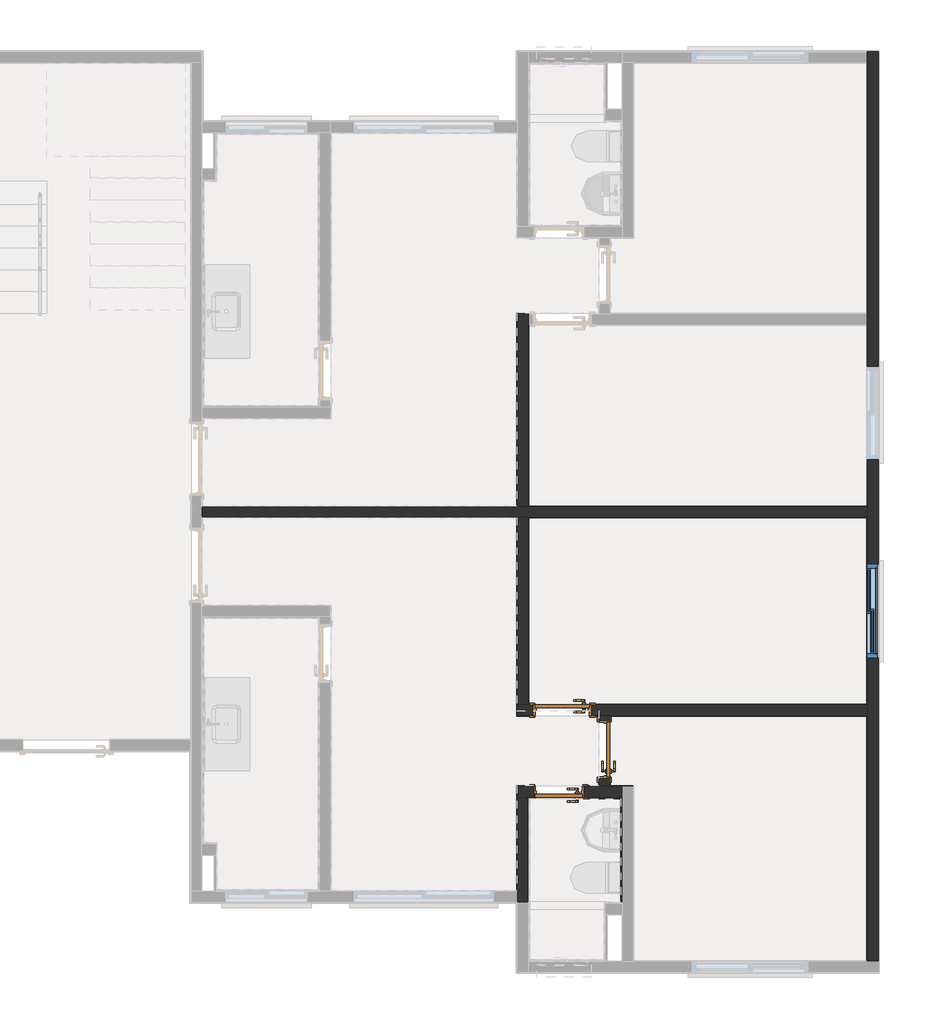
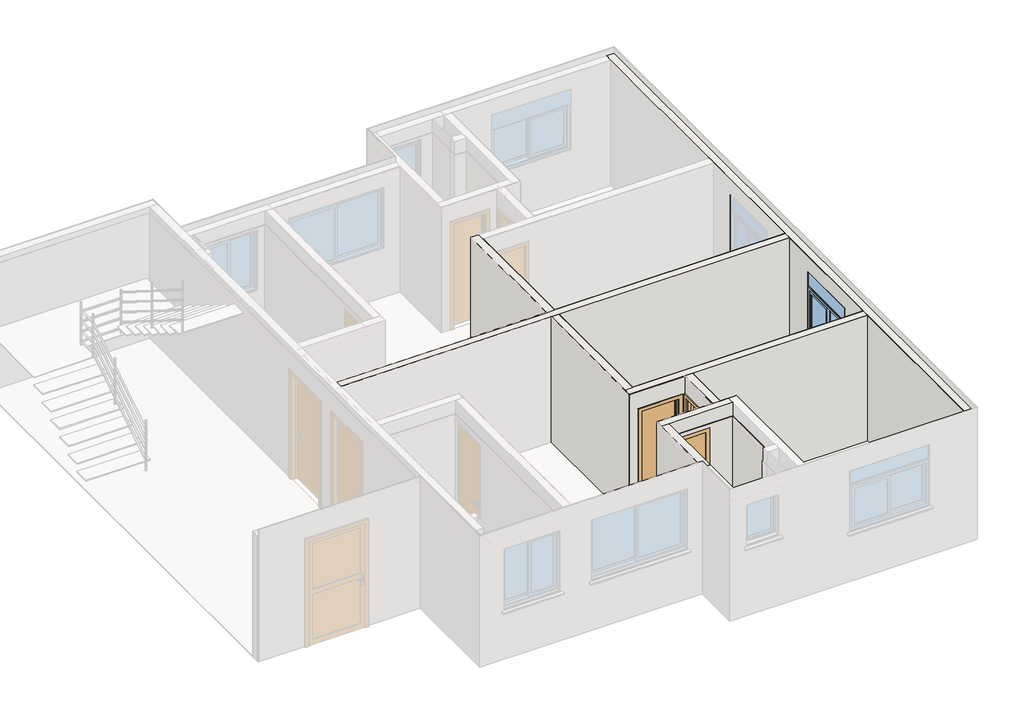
# One storey, part 8 of 11: 26 walls, 3 doors, 1 window.
"""IFC4 building model written with IfcOpenShell, lengths in millimetres."""

from ifc_helpers import new_model, si_unit, frame, origin, origin_with_axes, place, context, project, spatial, polyline, outline, extrude, faceted_brep, transform, mapped, element, save
from components import porta_de_madeira_interna_60_x_210_porta_de_madeira_interna_6d4bee1b, porta_de_madeira_interna_70_x_210_porta_de_madeira_interna_f307109d, window_120x120_8f0dd2b5

model = new_model("IFC4")

# Units and contexts
model_context = context("Model", 3, world=origin())
ifc_project = project(units=[si_unit("LENGTHUNIT", "METRE", prefix="MILLI")], contexts=[model_context])

# Site, building, storey
site = spatial("IfcSite", under=ifc_project)
building = spatial("IfcBuilding", under=site)
storey = spatial("IfcBuildingStorey", under=building, Name="Térreo", Elevation=0.0)

# Doors
placement = place(None, origin())
porta_de_madeira_interna_60_x_210_porta_de_madeira_interna_shape = porta_de_madeira_interna_60_x_210_porta_de_madeira_interna_6d4bee1b(model_context)
element("IfcDoor", 1, ObjectType="Porta de Madeira Interna 60 x 210 : Porta de Madeira Interna 60 x 210", at=placement, inside=storey, context=model_context, shape_type="MappedRepresentation", body=[
    mapped(porta_de_madeira_interna_60_x_210_porta_de_madeira_interna_shape, transform((16681.9956991, 2796.8217615, 0.0), x_axis=(-1.0, 0.0, 0.0), y_axis=(0.0, -1.0, 0.0), z_axis=(0.0, 0.0, 1.0))),
])
porta_de_madeira_interna_70_x_210_porta_de_madeira_interna_shape = porta_de_madeira_interna_70_x_210_porta_de_madeira_interna_f307109d(model_context)
element("IfcDoor", 2, ObjectType="Porta de Madeira Interna 70 x 210 : Porta de Madeira Interna 70 x 210", at=placement, inside=storey, context=model_context, shape_type="MappedRepresentation", body=[
    mapped(porta_de_madeira_interna_70_x_210_porta_de_madeira_interna_shape, transform((17273.1716432, 3342.9958256, 0.0), x_axis=(0.0, 1.0, 0.0), y_axis=(-1.0, 0.0, 0.0), z_axis=(0.0, 0.0, 1.0))),
])
element("IfcDoor", 3, ObjectType="Porta de Madeira Interna 70 x 210 : Porta de Madeira Interna 70 x 210", at=placement, inside=storey, context=model_context, shape_type="MappedRepresentation", body=[
    mapped(porta_de_madeira_interna_70_x_210_porta_de_madeira_interna_shape, transform((16726.9947994, 3853.1701411, 0.0), x_axis=(-1.0, 0.0, 0.0), y_axis=(0.0, -1.0, 0.0), z_axis=(0.0, 0.0, 1.0))),
])

# Walls
element("IfcWall", 4, ObjectType="Alvenaria Estrutural", at=placement, inside=storey, context=model_context, shape_type="Brep", body=[
    faceted_brep([(20649.9955249, 4525.0101878, 1000.0), (20649.9955249, 4525.0101878, 2200.0), (20789.9955249, 4525.0101878, 2200.0), (20789.9955249, 4525.0101878, 1000.0), (20692.4955249, 4525.0101878, 1000.0), (20649.9955249, 8275.01044, 2200.0), (20649.9955249, 8275.01044, 1000.0), (20692.4955249, 8275.01044, 1000.0), (20789.9955249, 8275.01044, 1000.0), (20789.9955249, 8275.01044, 2200.0), (20649.9955249, 12180.0252435, 0.0), (20649.9955249, 12319.9951043, 0.0), (20789.9955249, 12319.9951043, 0.0), (20789.9955249, 619.9952456, 0.0), (20649.9955249, 619.9952456, 0.0), (20649.9955249, 3773.9951411, 0.0), (20649.9955249, 3779.9951411, 0.0), (20649.9955249, 3919.9951411, 0.0), (20649.9955249, 3925.9951411, 0.0), (20649.9955249, 6324.0103139, 0.0), (20649.9955249, 6330.0103139, 0.0), (20649.9955249, 6470.0103139, 0.0), (20649.9955249, 6476.0103139, 0.0), (20649.9955249, 8804.0244803, 0.0), (20649.9955249, 8810.0244803, 0.0), (20649.9955249, 8950.0244803, 0.0), (20649.9955249, 8956.0244803, 0.0), (20649.9955249, 619.9952456, 2510.0), (20789.9955249, 619.9952456, 2510.0), (20649.9955249, 12319.9951043, 2510.0), (20789.9955249, 12319.9951043, 2510.0), (20789.9955249, 4475.0101878, 1000.0), (20789.9955249, 4475.0101878, 951.3083694), (20692.4955249, 4475.0101878, 972.0326341), (20692.4955249, 4475.0101878, 1000.0), (20789.9955249, 5775.0101878, 951.3083694), (20789.9955249, 5775.0101878, 1000.0), (20692.4955249, 5775.0101878, 1000.0), (20692.4955249, 5775.0101878, 972.0326341), (20692.4955249, 5725.0101878, 1000.0), (20789.9955249, 7025.01044, 1000.0), (20789.9955249, 7025.01044, 951.3083694), (20692.4955249, 7025.01044, 972.0326341), (20692.4955249, 7025.01044, 1000.0), (20789.9955249, 8325.01044, 951.3083694), (20789.9955249, 8325.01044, 1000.0), (20692.4955249, 8325.01044, 1000.0), (20692.4955249, 8325.01044, 972.0326341), (20692.4955249, 7075.01044, 1000.0), (20789.9955249, 7075.01044, 1000.0), (20649.9955249, 3773.9951411, 2510.0), (20649.9955249, 3779.9951411, 2510.0), (20649.9955249, 3919.9951411, 2510.0), (20649.9955249, 3925.9951411, 2510.0), (20649.9955249, 6324.0103139, 2510.0), (20649.9955249, 6330.0103139, 2510.0), (20649.9955249, 6470.0103139, 2510.0), (20649.9955249, 6476.0103139, 2510.0), (20649.9955249, 8804.0244803, 2510.0), (20649.9955249, 8810.0244803, 2510.0), (20649.9955249, 8950.0244803, 2510.0), (20649.9955249, 8956.0244803, 2510.0), (20649.9955249, 12180.0252435, 2510.0), (20649.9955249, 5725.0101878, 1000.0), (20649.9955249, 5725.0101878, 2200.0), (20649.9955249, 7075.01044, 2200.0), (20649.9955249, 7075.01044, 1000.0), (20789.9955249, 7075.01044, 2200.0), (20789.9955249, 5725.0101878, 2200.0), (20789.9955249, 5725.0101878, 1000.0)], [[[0, 1, 2, 3, 4]], [[5, 6, 7, 8, 9]], [[10, 11, 12, 13, 14, 15, 16, 17, 18, 19, 20, 21, 22, 23, 24, 25, 26]], [[27, 14, 13, 28]], [[11, 29, 30, 12]], [[31, 32, 33, 34]], [[35, 36, 37, 38]], [[39, 4, 34, 33, 38, 37]], [[3, 31, 34, 4]], [[32, 35, 38, 33]], [[40, 41, 42, 43]], [[44, 45, 46, 47]], [[7, 48, 43, 42, 47, 46]], [[49, 40, 43, 48]], [[41, 44, 47, 42]], [[11, 10, 26, 25, 24, 23, 22, 21, 20, 19, 18, 17, 16, 15, 14, 27, 50, 51, 52, 53, 54, 55, 56, 57, 58, 59, 60, 61, 62, 29], [63, 64, 1, 0], [65, 66, 6, 5]], [[13, 12, 30, 28], [41, 40, 49, 67, 9, 8, 45, 44], [68, 69, 36, 35, 32, 31, 3, 2]], [[64, 63, 39, 69, 68]], [[1, 64, 68, 2]], [[63, 0, 4, 39]], [[66, 65, 67, 49, 48]], [[65, 5, 9, 67]], [[6, 66, 48, 7]], [[45, 8, 7, 46]], [[36, 69, 39, 37]], [[50, 27, 28, 30, 29, 62, 61, 60, 59, 58, 57, 56, 55, 54, 53, 52, 51]]]),
    faceted_brep([(20649.9955249, 12319.9951043, 0.0), (20649.9955249, 12180.0252435, 0.0), (20649.9955249, 8956.0244803, 0.0), (20649.9955249, 8950.0244803, 0.0), (20649.9955249, 8810.0244803, 0.0), (20649.9955249, 8804.0244803, 0.0), (20649.9955249, 6476.0103139, 0.0), (20649.9955249, 6470.0103139, 0.0), (20649.9955249, 6330.0103139, 0.0), (20649.9955249, 6324.0103139, 0.0), (20649.9955249, 3925.9951411, 0.0), (20649.9955249, 3919.9951411, 0.0), (20649.9955249, 3779.9951411, 0.0), (20649.9955249, 3773.9951411, 0.0), (20649.9955249, 619.9952456, 0.0), (20649.9955249, 619.9952456, 2510.0), (20649.9955249, 3773.9951411, 2510.0), (20649.9955249, 3779.9951411, 2510.0), (20649.9955249, 3919.9951411, 2510.0), (20649.9955249, 3925.9951411, 2510.0), (20649.9955249, 6324.0103139, 2510.0), (20649.9955249, 6330.0103139, 2510.0), (20649.9955249, 6470.0103139, 2510.0), (20649.9955249, 6476.0103139, 2510.0), (20649.9955249, 8804.0244803, 2510.0), (20649.9955249, 8810.0244803, 2510.0), (20649.9955249, 8950.0244803, 2510.0), (20649.9955249, 8956.0244803, 2510.0), (20649.9955249, 12180.0252435, 2510.0), (20649.9955249, 12319.9951043, 2510.0), (20649.9955249, 5725.0101878, 1000.0), (20649.9955249, 5725.0101878, 2200.0), (20649.9955249, 4525.0101878, 2200.0), (20649.9955249, 4525.0101878, 1000.0), (20649.9955249, 7075.01044, 2200.0), (20649.9955249, 7075.01044, 1000.0), (20649.9955249, 8275.01044, 1000.0), (20649.9955249, 8275.01044, 2200.0), (20789.9955249, 619.9952456, 0.0), (20789.9955249, 12319.9951043, 0.0), (20789.9955249, 12319.9951043, 2510.0), (20789.9955249, 619.9952456, 2510.0), (20789.9955249, 5725.0101878, 2200.0), (20789.9955249, 5725.0101878, 1000.0), (20789.9955249, 5775.0101878, 1000.0), (20789.9955249, 5775.0101878, 951.3083694), (20789.9955249, 4475.0101878, 951.3083694), (20789.9955249, 4475.0101878, 1000.0), (20789.9955249, 4525.0101878, 1000.0), (20789.9955249, 4525.0101878, 2200.0), (20789.9955249, 7025.01044, 951.3083694), (20789.9955249, 7025.01044, 1000.0), (20789.9955249, 7075.01044, 1000.0), (20789.9955249, 7075.01044, 2200.0), (20789.9955249, 8275.01044, 2200.0), (20789.9955249, 8275.01044, 1000.0), (20789.9955249, 8325.01044, 1000.0), (20789.9955249, 8325.01044, 951.3083694), (20692.4955249, 5725.0101878, 1000.0), (20692.4955249, 4525.0101878, 1000.0), (20692.4955249, 7075.01044, 1000.0), (20692.4955249, 8275.01044, 1000.0), (20692.4955249, 4475.0101878, 972.0326341), (20692.4955249, 4475.0101878, 1000.0), (20692.4955249, 5775.0101878, 1000.0), (20692.4955249, 5775.0101878, 972.0326341), (20692.4955249, 7025.01044, 972.0326341), (20692.4955249, 7025.01044, 1000.0), (20692.4955249, 8325.01044, 1000.0), (20692.4955249, 8325.01044, 972.0326341)], [[[0, 1, 2, 3, 4, 5, 6, 7, 8, 9, 10, 11, 12, 13, 14, 15, 16, 17, 18, 19, 20, 21, 22, 23, 24, 25, 26, 27, 28, 29], [30, 31, 32, 33], [34, 35, 36, 37]], [[38, 39, 40, 41], [42, 43, 44, 45, 46, 47, 48, 49], [50, 51, 52, 53, 54, 55, 56, 57]], [[31, 30, 58, 43, 42]], [[32, 31, 42, 49]], [[33, 32, 49, 48, 59]], [[30, 33, 59, 58]], [[35, 34, 53, 52, 60]], [[34, 37, 54, 53]], [[37, 36, 61, 55, 54]], [[36, 35, 60, 61]], [[1, 0, 39, 38, 14, 13, 12, 11, 10, 9, 8, 7, 6, 5, 4, 3, 2]], [[15, 14, 38, 41]], [[16, 15, 41, 40, 29, 28, 27, 26, 25, 24, 23, 22, 21, 20, 19, 18, 17]], [[0, 29, 40, 39]], [[47, 46, 62, 63]], [[45, 44, 64, 65]], [[58, 59, 63, 62, 65, 64]], [[48, 47, 63, 59]], [[46, 45, 65, 62]], [[51, 50, 66, 67]], [[57, 56, 68, 69]], [[61, 60, 67, 66, 69, 68]], [[52, 51, 67, 60]], [[50, 57, 69, 66]], [[56, 55, 61, 68]], [[44, 43, 58, 64]]]),
])
element("IfcWall", 5, ObjectType="Alvenaria Estrutural", at=placement, inside=storey, context=model_context, shape_type="Brep", body=[
    faceted_brep([(20643.9955249, 3919.9951411, 0.0), (20649.9955249, 3919.9951411, 0.0), (20649.9955249, 3779.9951411, 0.0), (20643.9955249, 3779.9951411, 0.0), (17345.9966432, 3779.9951411, 0.0), (17339.9966432, 3779.9951411, 0.0), (17199.9966432, 3779.9951411, 0.0), (17193.9966432, 3779.9951411, 0.0), (17101.9947994, 3779.9951411, 0.0), (17101.9947994, 3919.9951411, 0.0), (16289.9950207, 3919.9951411, 2510.0), (16149.9950207, 3919.9951411, 2510.0), (16149.9950207, 3779.9951411, 2510.0), (17193.9966432, 3779.9951411, 2510.0), (17199.9966432, 3779.9951411, 2510.0), (17339.9966432, 3779.9951411, 2510.0), (17345.9966432, 3779.9951411, 2510.0), (20643.9955249, 3779.9951411, 2510.0), (20649.9955249, 3779.9951411, 2510.0), (20649.9955249, 3919.9951411, 2510.0), (20643.9955249, 3919.9951411, 2510.0), (16295.9950207, 3919.9951411, 2510.0), (16351.9947994, 3919.9951411, 0.0), (16351.9947994, 3919.9951411, 2125.0), (16351.9947994, 3779.9951411, 2125.0), (16351.9947994, 3779.9951411, 0.0), (17101.9947994, 3919.9951411, 2125.0), (17101.9947994, 3779.9951411, 2125.0), (16295.9950207, 3919.9951411, 0.0), (16149.9950207, 3779.9951411, 0.0), (16149.9950207, 3919.9951411, 0.0), (16289.9950207, 3919.9951411, 0.0)], [[[0, 1, 2, 3, 4, 5, 6, 7, 8, 9]], [[10, 11, 12, 13, 14, 15, 16, 17, 18, 19, 20, 21]], [[22, 23, 24, 25]], [[23, 26, 27, 24]], [[26, 9, 8, 27]], [[28, 22, 25, 29, 30, 31]], [[18, 17, 16, 15, 14, 13, 12, 29, 25, 24, 27, 8, 7, 6, 5, 4, 3, 2]], [[11, 10, 21, 20, 19, 1, 0, 9, 26, 23, 22, 28, 31, 30]], [[11, 30, 29, 12]], [[1, 19, 18, 2]]]),
    faceted_brep([(16149.9950207, 3919.9951411, 2510.0), (16289.9950207, 3919.9951411, 2510.0), (16295.9950207, 3919.9951411, 2510.0), (20643.9955249, 3919.9951411, 2510.0), (20649.9955249, 3919.9951411, 2510.0), (20649.9955249, 3919.9951411, 0.0), (20643.9955249, 3919.9951411, 0.0), (17101.9947994, 3919.9951411, 0.0), (17101.9947994, 3919.9951411, 2125.0), (16351.9947994, 3919.9951411, 2125.0), (16351.9947994, 3919.9951411, 0.0), (16295.9950207, 3919.9951411, 0.0), (16289.9950207, 3919.9951411, 0.0), (16149.9950207, 3919.9951411, 0.0), (20649.9955249, 3779.9951411, 2510.0), (20643.9955249, 3779.9951411, 2510.0), (17345.9966432, 3779.9951411, 2510.0), (17339.9966432, 3779.9951411, 2510.0), (17199.9966432, 3779.9951411, 2510.0), (17193.9966432, 3779.9951411, 2510.0), (16149.9950207, 3779.9951411, 2510.0), (16149.9950207, 3779.9951411, 0.0), (16351.9947994, 3779.9951411, 0.0), (16351.9947994, 3779.9951411, 2125.0), (17101.9947994, 3779.9951411, 2125.0), (17101.9947994, 3779.9951411, 0.0), (17193.9966432, 3779.9951411, 0.0), (17199.9966432, 3779.9951411, 0.0), (17339.9966432, 3779.9951411, 0.0), (17345.9966432, 3779.9951411, 0.0), (20643.9955249, 3779.9951411, 0.0), (20649.9955249, 3779.9951411, 0.0)], [[[0, 1, 2, 3, 4, 5, 6, 7, 8, 9, 10, 11, 12, 13]], [[14, 15, 16, 17, 18, 19, 20, 21, 22, 23, 24, 25, 26, 27, 28, 29, 30, 31]], [[6, 5, 31, 30, 29, 28, 27, 26, 25, 7]], [[1, 0, 20, 19, 18, 17, 16, 15, 14, 4, 3, 2]], [[10, 9, 23, 22]], [[9, 8, 24, 23]], [[8, 7, 25, 24]], [[0, 13, 21, 20]], [[5, 4, 14, 31]], [[11, 10, 22, 21, 13, 12]]]),
])
element("IfcWall", 6, ObjectType="Alvenaria Estrutural", at=placement, inside=storey, context=model_context, shape_type="Brep", body=[
    faceted_brep([(20643.9955249, 6470.0103139, 0.0), (20649.9955249, 6470.0103139, 0.0), (20649.9955249, 6330.0103139, 0.0), (20643.9955249, 6330.0103139, 0.0), (16295.9950207, 6330.0103139, 0.0), (16289.9950207, 6330.0103139, 0.0), (16149.9950207, 6330.0103139, 0.0), (16143.9950207, 6330.0103139, 0.0), (12095.9984066, 6330.0103139, 0.0), (12089.9984066, 6330.0103139, 0.0), (12089.9984066, 6470.0103139, 0.0), (12095.9984066, 6470.0103139, 0.0), (16143.9950207, 6470.0103139, 0.0), (16149.9950207, 6470.0103139, 0.0), (16289.9950207, 6470.0103139, 0.0), (16295.9950207, 6470.0103139, 0.0), (20649.9955249, 6330.0103139, 2510.0), (20643.9955249, 6330.0103139, 2510.0), (16295.9950207, 6330.0103139, 2510.0), (16289.9950207, 6330.0103139, 2510.0), (16149.9950207, 6330.0103139, 2510.0), (16143.9950207, 6330.0103139, 2510.0), (12095.9984066, 6330.0103139, 2510.0), (12089.9984066, 6330.0103139, 2510.0), (12089.9984066, 6470.0103139, 2510.0), (12095.9984066, 6470.0103139, 2510.0), (16143.9950207, 6470.0103139, 2510.0), (16149.9950207, 6470.0103139, 2510.0), (16289.9950207, 6470.0103139, 2510.0), (16295.9950207, 6470.0103139, 2510.0), (20643.9955249, 6470.0103139, 2510.0), (20649.9955249, 6470.0103139, 2510.0)], [[[0, 1, 2, 3, 4, 5, 6, 7, 8, 9, 10, 11, 12, 13, 14, 15]], [[2, 16, 17, 18, 19, 20, 21, 22, 23, 9, 8, 7, 6, 5, 4, 3]], [[1, 0, 15, 14, 13, 12, 11, 10, 24, 25, 26, 27, 28, 29, 30, 31]], [[25, 24, 23, 22, 21, 20, 19, 18, 17, 16, 31, 30, 29, 28, 27, 26]], [[24, 10, 9, 23]], [[1, 31, 16, 2]]]),
    faceted_brep([(20649.9955249, 6470.0103139, 0.0), (20643.9955249, 6470.0103139, 0.0), (16295.9950207, 6470.0103139, 0.0), (16289.9950207, 6470.0103139, 0.0), (16149.9950207, 6470.0103139, 0.0), (16143.9950207, 6470.0103139, 0.0), (12095.9984066, 6470.0103139, 0.0), (12089.9984066, 6470.0103139, 0.0), (12089.9984066, 6470.0103139, 2510.0), (12095.9984066, 6470.0103139, 2510.0), (16143.9950207, 6470.0103139, 2510.0), (16149.9950207, 6470.0103139, 2510.0), (16289.9950207, 6470.0103139, 2510.0), (16295.9950207, 6470.0103139, 2510.0), (20643.9955249, 6470.0103139, 2510.0), (20649.9955249, 6470.0103139, 2510.0), (20649.9955249, 6330.0103139, 0.0), (20649.9955249, 6330.0103139, 2510.0), (20643.9955249, 6330.0103139, 2510.0), (16295.9950207, 6330.0103139, 2510.0), (16289.9950207, 6330.0103139, 2510.0), (16149.9950207, 6330.0103139, 2510.0), (16143.9950207, 6330.0103139, 2510.0), (12095.9984066, 6330.0103139, 2510.0), (12089.9984066, 6330.0103139, 2510.0), (12089.9984066, 6330.0103139, 0.0), (12095.9984066, 6330.0103139, 0.0), (16143.9950207, 6330.0103139, 0.0), (16149.9950207, 6330.0103139, 0.0), (16289.9950207, 6330.0103139, 0.0), (16295.9950207, 6330.0103139, 0.0), (20643.9955249, 6330.0103139, 0.0)], [[[0, 1, 2, 3, 4, 5, 6, 7, 8, 9, 10, 11, 12, 13, 14, 15]], [[16, 17, 18, 19, 20, 21, 22, 23, 24, 25, 26, 27, 28, 29, 30, 31]], [[1, 0, 16, 31, 30, 29, 28, 27, 26, 25, 7, 6, 5, 4, 3, 2]], [[9, 8, 24, 23, 22, 21, 20, 19, 18, 17, 15, 14, 13, 12, 11, 10]], [[8, 7, 25, 24]], [[0, 15, 17, 16]]]),
])
element("IfcWall", 7, ObjectType="Alvenaria Estrutural", at=placement, inside=storey, context=model_context, shape_type="Brep", body=[
    faceted_brep([(16149.9950207, 6324.0103139, 0.0), (16149.9950207, 6330.0103139, 0.0), (16289.9950207, 6330.0103139, 0.0), (16289.9950207, 6324.0103139, 0.0), (16289.9950207, 3925.9951411, 0.0), (16289.9950207, 3919.9951411, 0.0), (16149.9950207, 3919.9951411, 0.0), (16149.9950207, 6324.0103139, 2510.0), (16149.9950207, 3919.9951411, 2510.0), (16289.9950207, 3919.9951411, 2510.0), (16289.9950207, 3925.9951411, 2510.0), (16289.9950207, 6324.0103139, 2510.0), (16289.9950207, 6330.0103139, 2510.0), (16149.9950207, 6330.0103139, 2510.0)], [[[0, 1, 2, 3, 4, 5, 6]], [[7, 8, 9, 10, 11, 12, 13]], [[2, 12, 11, 10, 9, 5, 4, 3]], [[1, 0, 6, 8, 7, 13]], [[1, 13, 12, 2]], [[8, 6, 5, 9]]]),
    faceted_brep([(16149.9950207, 6330.0103139, 0.0), (16149.9950207, 6324.0103139, 0.0), (16149.9950207, 3919.9951411, 0.0), (16149.9950207, 3919.9951411, 2510.0), (16149.9950207, 6324.0103139, 2510.0), (16149.9950207, 6330.0103139, 2510.0), (16289.9950207, 6330.0103139, 0.0), (16289.9950207, 6330.0103139, 2510.0), (16289.9950207, 6324.0103139, 2510.0), (16289.9950207, 3925.9951411, 2510.0), (16289.9950207, 3919.9951411, 2510.0), (16289.9950207, 3919.9951411, 0.0), (16289.9950207, 3925.9951411, 0.0), (16289.9950207, 6324.0103139, 0.0)], [[[0, 1, 2, 3, 4, 5]], [[6, 7, 8, 9, 10, 11, 12, 13]], [[1, 0, 6, 13, 12, 11, 2]], [[4, 3, 10, 9, 8, 7, 5]], [[0, 5, 7, 6]], [[3, 2, 11, 10]]]),
])
element("IfcWall", 8, ObjectType="Alvenaria Estrutural", at=placement, inside=storey, context=model_context, shape_type="Brep", body=[
    faceted_brep([(17199.9966432, 2875.9967615, 2510.0), (17199.9966432, 2869.9967615, 2510.0), (17339.9966432, 2869.9967615, 2510.0), (17339.9966432, 2875.9967615, 2510.0), (17339.9966432, 3779.9951411, 2510.0), (17199.9966432, 3779.9951411, 2510.0), (17199.9966432, 3773.9951411, 2510.0), (17199.9966432, 3717.9958256, 2125.0), (17199.9966432, 3717.9958256, 0.0), (17339.9966432, 3717.9958256, 0.0), (17339.9966432, 3717.9958256, 2125.0), (17199.9966432, 2967.9958256, 2125.0), (17339.9966432, 2967.9958256, 2125.0), (17199.9966432, 2967.9958256, 0.0), (17339.9966432, 2967.9958256, 0.0), (17339.9966432, 2869.9967615, 0.0), (17339.9966432, 2875.9967615, 0.0), (17339.9966432, 3779.9951411, 0.0), (17199.9966432, 3779.9951411, 0.0), (17199.9966432, 3773.9951411, 0.0), (17199.9966432, 2875.9967615, 0.0), (17199.9966432, 2869.9967615, 0.0)], [[[0, 1, 2, 3, 4, 5, 6]], [[7, 8, 9, 10]], [[11, 7, 10, 12]], [[13, 11, 12, 14]], [[4, 3, 2, 15, 16, 14, 12, 10, 9, 17]], [[1, 0, 6, 5, 18, 19, 8, 7, 11, 13, 20, 21]], [[19, 18, 17, 9, 8]], [[1, 21, 15, 2]], [[18, 5, 4, 17]], [[20, 13, 14, 16, 15, 21]]]),
    faceted_brep([(17199.9966432, 2869.9967615, 2510.0), (17199.9966432, 2875.9967615, 2510.0), (17199.9966432, 3773.9951411, 2510.0), (17199.9966432, 3779.9951411, 2510.0), (17199.9966432, 3779.9951411, 0.0), (17199.9966432, 3773.9951411, 0.0), (17199.9966432, 3717.9958256, 0.0), (17199.9966432, 3717.9958256, 2125.0), (17199.9966432, 2967.9958256, 2125.0), (17199.9966432, 2967.9958256, 0.0), (17199.9966432, 2875.9967615, 0.0), (17199.9966432, 2869.9967615, 0.0), (17339.9966432, 3779.9951411, 2510.0), (17339.9966432, 2875.9967615, 2510.0), (17339.9966432, 2869.9967615, 2510.0), (17339.9966432, 2869.9967615, 0.0), (17339.9966432, 2875.9967615, 0.0), (17339.9966432, 2967.9958256, 0.0), (17339.9966432, 2967.9958256, 2125.0), (17339.9966432, 3717.9958256, 2125.0), (17339.9966432, 3717.9958256, 0.0), (17339.9966432, 3779.9951411, 0.0)], [[[0, 1, 2, 3, 4, 5, 6, 7, 8, 9, 10, 11]], [[12, 13, 14, 15, 16, 17, 18, 19, 20, 21]], [[5, 4, 21, 20, 6]], [[1, 0, 14, 13, 12, 3, 2]], [[7, 6, 20, 19]], [[8, 7, 19, 18]], [[9, 8, 18, 17]], [[0, 11, 15, 14]], [[4, 3, 12, 21]], [[10, 9, 17, 16, 15, 11]]]),
])
element("IfcWall", 9, ObjectType="Alvenaria Estrutural", at=placement, inside=storey, context=model_context, shape_type="Brep", body=[
    faceted_brep([(17339.9966432, 2869.9967615, 0.0), (17499.9970535, 2869.9967615, 0.0), (17499.9970535, 2729.9967615, 0.0), (17006.9956991, 2729.9967615, 0.0), (17006.9956991, 2869.9967615, 0.0), (17193.9966432, 2869.9967615, 0.0), (17199.9966432, 2869.9967615, 0.0), (17193.9966432, 2869.9967615, 2510.0), (16149.9956991, 2869.9967615, 2510.0), (16149.9956991, 2729.9967615, 2510.0), (16289.9956991, 2729.9967615, 2510.0), (17499.9970535, 2729.9967615, 2510.0), (17499.9970535, 2869.9967615, 2510.0), (17339.9966432, 2869.9967615, 2510.0), (17199.9966432, 2869.9967615, 2510.0), (16356.9956991, 2869.9967615, 0.0), (16356.9956991, 2869.9967615, 2125.0), (16356.9956991, 2729.9967615, 2125.0), (16356.9956991, 2729.9967615, 0.0), (17006.9956991, 2869.9967615, 2125.0), (17006.9956991, 2729.9967615, 2125.0), (16149.9956991, 2869.9967615, 0.0), (16289.9956991, 2729.9967615, 0.0), (16149.9956991, 2729.9967615, 0.0)], [[[0, 1, 2, 3, 4, 5, 6]], [[7, 8, 9, 10, 11, 12, 13, 14]], [[15, 16, 17, 18]], [[16, 19, 20, 17]], [[19, 4, 3, 20]], [[21, 15, 18, 22, 23]], [[11, 10, 9, 23, 22, 18, 17, 20, 3, 2]], [[8, 7, 14, 13, 12, 1, 0, 6, 5, 4, 19, 16, 15, 21]], [[8, 21, 23, 9]], [[1, 12, 11, 2]]]),
    faceted_brep([(16149.9956991, 2869.9967615, 2510.0), (17193.9966432, 2869.9967615, 2510.0), (17199.9966432, 2869.9967615, 2510.0), (17339.9966432, 2869.9967615, 2510.0), (17499.9970535, 2869.9967615, 2510.0), (17499.9970535, 2869.9967615, 0.0), (17339.9966432, 2869.9967615, 0.0), (17199.9966432, 2869.9967615, 0.0), (17193.9966432, 2869.9967615, 0.0), (17006.9956991, 2869.9967615, 0.0), (17006.9956991, 2869.9967615, 2125.0), (16356.9956991, 2869.9967615, 2125.0), (16356.9956991, 2869.9967615, 0.0), (16149.9956991, 2869.9967615, 0.0), (17499.9970535, 2729.9967615, 2510.0), (16289.9956991, 2729.9967615, 2510.0), (16149.9956991, 2729.9967615, 2510.0), (16149.9956991, 2729.9967615, 0.0), (16289.9956991, 2729.9967615, 0.0), (16356.9956991, 2729.9967615, 0.0), (16356.9956991, 2729.9967615, 2125.0), (17006.9956991, 2729.9967615, 2125.0), (17006.9956991, 2729.9967615, 0.0), (17499.9970535, 2729.9967615, 0.0)], [[[0, 1, 2, 3, 4, 5, 6, 7, 8, 9, 10, 11, 12, 13]], [[14, 15, 16, 17, 18, 19, 20, 21, 22, 23]], [[6, 5, 23, 22, 9, 8, 7]], [[1, 0, 16, 15, 14, 4, 3, 2]], [[12, 11, 20, 19]], [[11, 10, 21, 20]], [[10, 9, 22, 21]], [[0, 13, 17, 16]], [[5, 4, 14, 23]], [[13, 12, 19, 18, 17]]]),
])
element("IfcWall", 10, ObjectType="Alvenaria Estrutural", at=placement, inside=storey, context=model_context, shape_type="Brep", body=[
    faceted_brep([(16289.9956991, 2709.9967615, 0.0), (16289.9956991, 1374.9970972, 0.0), (16149.9956991, 1374.9970972, 0.0), (16149.9956991, 1519.9983274, 0.0), (16149.9956991, 1525.9983274, 0.0), (16149.9956991, 2729.9967615, 0.0), (16289.9956991, 2729.9967615, 0.0), (16289.9956991, 1374.9970972, 2510.0), (16289.9956991, 2729.9967615, 2510.0), (16149.9956991, 2729.9967615, 2510.0), (16149.9956991, 1525.9983274, 2510.0), (16149.9956991, 1519.9983274, 2510.0), (16149.9956991, 1374.9970972, 2510.0), (16289.9956991, 2729.9967615, 2250.0)], [[[0, 1, 2, 3, 4, 5, 6]], [[7, 8, 9, 10, 11, 12]], [[1, 7, 12, 2]], [[1, 0, 6, 13, 8, 7]], [[2, 12, 11, 10, 9, 5, 4, 3]], [[13, 6, 5, 9, 8]]]),
    faceted_brep([(16289.9956991, 1374.9970972, 0.0), (16289.9956991, 2709.9967615, 0.0), (16289.9956991, 2729.9967615, 0.0), (16289.9956991, 2729.9967615, 2250.0), (16289.9956991, 2729.9967615, 2510.0), (16289.9956991, 1374.9970972, 2510.0), (16149.9956991, 1374.9970972, 0.0), (16149.9956991, 1374.9970972, 2510.0), (16149.9956991, 1519.9983274, 2510.0), (16149.9956991, 1525.9983274, 2510.0), (16149.9956991, 2729.9967615, 2510.0), (16149.9956991, 2729.9967615, 0.0), (16149.9956991, 1525.9983274, 0.0), (16149.9956991, 1519.9983274, 0.0)], [[[0, 1, 2, 3, 4, 5]], [[6, 7, 8, 9, 10, 11, 12, 13]], [[1, 0, 6, 13, 12, 11, 2]], [[5, 4, 10, 9, 8, 7]], [[0, 5, 7, 6]], [[3, 2, 11, 10, 4]]]),
])
element("IfcWall", 11, ObjectType="Alvenaria Estrutural", at=placement, inside=storey, context=model_context, shape_type="Brep", body=[
    faceted_brep([(16289.9950207, 6476.0103139, 0.0), (16289.9950207, 6470.0103139, 0.0), (16149.9950207, 6470.0103139, 0.0), (16149.9950207, 6476.0103139, 0.0), (16149.9950207, 8950.0244803, 0.0), (16289.9950207, 8950.0244803, 0.0), (16289.9950207, 8810.0244803, 0.0), (16289.9950207, 8804.0244803, 0.0), (16289.9950207, 8810.0244803, 2510.0), (16289.9950207, 8950.0244803, 2510.0), (16149.9950207, 8950.0244803, 2510.0), (16149.9950207, 6476.0103139, 2510.0), (16149.9950207, 6470.0103139, 2510.0), (16289.9950207, 6470.0103139, 2510.0), (16289.9950207, 6476.0103139, 2510.0), (16289.9950207, 8804.0244803, 2510.0)], [[[0, 1, 2, 3, 4, 5, 6, 7]], [[8, 9, 10, 11, 12, 13, 14, 15]], [[1, 0, 7, 6, 5, 9, 8, 15, 14, 13]], [[2, 12, 11, 10, 4, 3]], [[9, 5, 4, 10]], [[1, 13, 12, 2]]]),
    faceted_brep([(16289.9950207, 6470.0103139, 0.0), (16289.9950207, 6476.0103139, 0.0), (16289.9950207, 8804.0244803, 0.0), (16289.9950207, 8810.0244803, 0.0), (16289.9950207, 8950.0244803, 0.0), (16289.9950207, 8950.0244803, 2510.0), (16289.9950207, 8810.0244803, 2510.0), (16289.9950207, 8804.0244803, 2510.0), (16289.9950207, 6476.0103139, 2510.0), (16289.9950207, 6470.0103139, 2510.0), (16149.9950207, 6470.0103139, 0.0), (16149.9950207, 6470.0103139, 2510.0), (16149.9950207, 6476.0103139, 2510.0), (16149.9950207, 8950.0244803, 2510.0), (16149.9950207, 8950.0244803, 0.0), (16149.9950207, 6476.0103139, 0.0)], [[[0, 1, 2, 3, 4, 5, 6, 7, 8, 9]], [[10, 11, 12, 13, 14, 15]], [[1, 0, 10, 15, 14, 4, 3, 2]], [[6, 5, 13, 12, 11, 9, 8, 7]], [[5, 4, 14, 13]], [[0, 9, 11, 10]]]),
])
element("IfcWall", 12, ObjectType="Azulejo", at=placement, inside=storey, context=model_context, shape_type="SolidModel", body=[
    faceted_brep([(17479.9970535, 2709.9967615, 0.0), (17006.9956991, 2709.9967615, 0.0), (17006.9956991, 2719.9967615, 0.0), (17489.9970535, 2719.9967615, 0.0), (17489.9970535, 2709.9967615, 0.0), (16309.9956991, 2709.9967615, 2250.0), (17479.9970535, 2709.9967615, 2250.0), (17489.9970535, 2709.9967615, 2250.0), (17489.9970535, 2719.9967615, 2250.0), (16299.9956991, 2719.9967615, 2250.0), (16299.9956991, 2709.9967615, 2250.0), (16356.9956991, 2709.9967615, 2125.0), (16356.9956991, 2709.9967615, 0.0), (16356.9956991, 2719.9967615, 0.0), (16356.9956991, 2719.9967615, 2125.0), (17006.9956991, 2719.9967615, 2125.0), (17006.9956991, 2709.9967615, 2125.0), (16309.9956991, 2709.9967615, 0.0), (16299.9956991, 2709.9967615, 0.0), (16299.9956991, 2719.9967615, 0.0)], [[[0, 1, 2, 3, 4]], [[5, 6, 7, 8, 9, 10]], [[11, 12, 13, 14]], [[11, 14, 15, 16]], [[2, 1, 16, 15]], [[13, 12, 17, 18, 19]], [[14, 13, 19, 9, 8, 3, 2, 15]], [[1, 0, 4, 7, 6, 5, 10, 18, 17, 12, 11, 16]], [[4, 3, 8, 7]], [[10, 9, 19, 18]]]),
    extrude(outline(polyline([(0.0, 17006.9956991), (0.0, 17499.9970535), (2250.0, 17499.9970535), (2250.0, 16289.9956991), (0.0, 16289.9956991), (0.0, 16356.9956991), (2125.0, 16356.9956991), (2125.0, 17006.9956991), (0.0, 17006.9956991)])), frame((0.0, 2719.9967615, 0.0), z_axis=(0.0, 1.0, 0.0), x_axis=(0.0, 0.0, 1.0)), (0.0, 0.0, 1.0), 10.0),
])
element("IfcWall", 13, ObjectType="Azulejo", at=placement, inside=storey, context=model_context, shape_type="SweptSolid", body=[
    extrude(outline(polyline([(17479.9970535, 1379.9970972), (17479.9970535, 2709.9967615), (17489.9970535, 2709.9967615), (17489.9970535, 1379.9970972), (17479.9970535, 1379.9970972)])), origin_with_axes(), (0.0, 0.0, 1.0), 2250.0),
    extrude(outline(polyline([(17499.9970535, 2719.9967615), (17499.9970535, 1369.9970972), (17489.9970535, 1369.9970972), (17489.9970535, 2719.9967615), (17499.9970535, 2719.9967615)])), origin_with_axes(), (0.0, 0.0, 1.0), 2250.0),
])
element("IfcWall", 14, ObjectType="Gesso Liso + Pintura", at=placement, inside=storey, context=model_context, shape_type="SweptSolid", body=[
    extrude(outline(polyline([(16295.9950207, 8810.0244803), (16295.9950207, 6470.0103139), (16294.9950207, 6470.0103139), (16294.9950207, 8810.0244803), (16295.9950207, 8810.0244803)])), origin_with_axes(), (0.0, 0.0, 1.0), 2510.0),
    extrude(outline(polyline([(16289.9950207, 6470.0103139), (16289.9950207, 8810.0244803), (16294.9950207, 8810.0244803), (16294.9950207, 6470.0103139), (16289.9950207, 6470.0103139)])), origin_with_axes(), (0.0, 0.0, 1.0), 2510.0),
])
element("IfcWall", 15, ObjectType="Gesso Liso + Pintura", at=placement, inside=storey, context=model_context, shape_type="SweptSolid", body=[
    extrude(outline(polyline([(16289.9950207, 6476.0103139), (20649.9955249, 6476.0103139), (20649.9955249, 6475.0103139), (16289.9950207, 6475.0103139), (16289.9950207, 6476.0103139)])), origin_with_axes(), (0.0, 0.0, 1.0), 2510.0),
    extrude(outline(polyline([(20649.9955249, 6470.0103139), (16289.9950207, 6470.0103139), (16289.9950207, 6475.0103139), (20649.9955249, 6475.0103139), (20649.9955249, 6470.0103139)])), origin_with_axes(), (0.0, 0.0, 1.0), 2510.0),
])
element("IfcWall", 16, ObjectType="Gesso Liso + Pintura", at=placement, inside=storey, context=model_context, shape_type="SweptSolid", body=[
    extrude(outline(polyline([(6330.0103139, 0.0), (3919.9951411, 0.0), (3919.9951411, 2510.0), (6330.0103139, 2510.0), (6330.0103139, 0.0)]), holes=[polyline([(5725.0101878, 1000.0), (5725.0101878, 2200.0), (4525.0101878, 2200.0), (4525.0101878, 1000.0), (5725.0101878, 1000.0)])]), frame((20643.9955249, 0.0, 0.0), z_axis=(1.0, 0.0, 0.0), x_axis=(0.0, 1.0, 0.0)), (0.0, 0.0, 1.0), 1.0),
    extrude(outline(polyline([(6330.0103139, 0.0), (3919.9951411, 0.0), (3919.9951411, 2510.0), (6330.0103139, 2510.0), (6330.0103139, 0.0)]), holes=[polyline([(5725.0101878, 1000.0), (5725.0101878, 2200.0), (4525.0101878, 2200.0), (4525.0101878, 1000.0), (5725.0101878, 1000.0)])]), frame((20644.9955249, 0.0, 0.0), z_axis=(1.0, 0.0, 0.0), x_axis=(0.0, 1.0, 0.0)), (0.0, 0.0, 1.0), 5.0),
])
element("IfcWall", 17, ObjectType="Gesso Liso + Pintura", at=placement, inside=storey, context=model_context, shape_type="SweptSolid", body=[
    extrude(outline(polyline([(0.0, 17101.9947994), (0.0, 20649.9955249), (2510.0, 20649.9955249), (2510.0, 16289.9950207), (0.0, 16289.9950207), (0.0, 16351.9947994), (2125.0, 16351.9947994), (2125.0, 17101.9947994), (0.0, 17101.9947994)])), frame((0.0, 3924.9951411, 0.0), z_axis=(0.0, 1.0, 0.0), x_axis=(0.0, 0.0, 1.0)), (0.0, 0.0, 1.0), 1.0),
    extrude(outline(polyline([(2510.0, 20649.9955249), (2510.0, 16289.9950207), (0.0, 16289.9950207), (0.0, 16351.9947994), (2125.0, 16351.9947994), (2125.0, 17101.9947994), (0.0, 17101.9947994), (0.0, 20649.9955249), (2510.0, 20649.9955249)])), frame((0.0, 3919.9951411, 0.0), z_axis=(0.0, 1.0, 0.0), x_axis=(0.0, 0.0, 1.0)), (0.0, 0.0, 1.0), 5.0),
])
element("IfcWall", 18, ObjectType="Gesso Liso + Pintura", at=placement, inside=storey, context=model_context, shape_type="SweptSolid", body=[
    extrude(outline(polyline([(16295.9950207, 6330.0103139), (16295.9950207, 3919.9951411), (16294.9950207, 3919.9951411), (16294.9950207, 6330.0103139), (16295.9950207, 6330.0103139)])), origin_with_axes(), (0.0, 0.0, 1.0), 2510.0),
    extrude(outline(polyline([(16289.9950207, 3919.9951411), (16289.9950207, 6330.0103139), (16294.9950207, 6330.0103139), (16294.9950207, 3919.9951411), (16289.9950207, 3919.9951411)])), origin_with_axes(), (0.0, 0.0, 1.0), 2510.0),
])
element("IfcWall", 19, ObjectType="Gesso Liso + Pintura", at=placement, inside=storey, context=model_context, shape_type="SweptSolid", body=[
    extrude(outline(polyline([(20649.9955249, 6324.0103139), (16289.9950207, 6324.0103139), (16289.9950207, 6325.0103139), (20649.9955249, 6325.0103139), (20649.9955249, 6324.0103139)])), origin_with_axes(), (0.0, 0.0, 1.0), 2510.0),
    extrude(outline(polyline([(16289.9950207, 6330.0103139), (20649.9955249, 6330.0103139), (20649.9955249, 6325.0103139), (16289.9950207, 6325.0103139), (16289.9950207, 6330.0103139)])), origin_with_axes(), (0.0, 0.0, 1.0), 2510.0),
])
element("IfcWall", 20, ObjectType="Gesso Liso + Pintura", at=placement, inside=storey, context=model_context, shape_type="SolidModel", body=[
    faceted_brep([(20643.9955249, 625.9952456, 0.0), (20643.9955249, 3779.9951411, 0.0), (20644.9955249, 3779.9951411, 0.0), (20644.9955249, 624.9952456, 0.0), (20643.9955249, 624.9952456, 0.0), (20644.9955249, 3779.9951411, 2510.0), (20643.9955249, 3779.9951411, 2510.0), (20643.9955249, 625.9952456, 2510.0), (20643.9955249, 624.9952456, 2510.0), (20644.9955249, 624.9952456, 2510.0)], [[[0, 1, 2, 3, 4]], [[5, 6, 7, 8, 9]], [[2, 1, 6, 5]], [[2, 5, 9, 3]], [[1, 0, 4, 8, 7, 6]], [[4, 3, 9, 8]]]),
    extrude(outline(polyline([(20649.9955249, 3779.9951411), (20649.9955249, 619.9952456), (20644.9955249, 619.9952456), (20644.9955249, 3779.9951411), (20649.9955249, 3779.9951411)])), origin_with_axes(), (0.0, 0.0, 1.0), 2510.0),
])
element("IfcWall", 21, ObjectType="Gesso Liso + Pintura", at=placement, inside=storey, context=model_context, shape_type="SolidModel", body=[
    faceted_brep([(17345.9966432, 2875.9967615, 0.0), (17644.9970535, 2875.9967615, 0.0), (17644.9970535, 2874.9967615, 0.0), (17344.9966432, 2874.9967615, 0.0), (17344.9966432, 2875.9967615, 0.0), (17644.9970535, 2875.9967615, 2510.0), (17345.9966432, 2875.9967615, 2510.0), (17344.9966432, 2875.9967615, 2510.0), (17344.9966432, 2874.9967615, 2510.0), (17644.9970535, 2874.9967615, 2510.0)], [[[0, 1, 2, 3, 4]], [[5, 6, 7, 8, 9]], [[2, 9, 8, 3]], [[1, 0, 4, 7, 6, 5]], [[1, 5, 9, 2]], [[4, 3, 8, 7]]]),
    extrude(outline(polyline([(17639.9970535, 2869.9967615), (17339.9966432, 2869.9967615), (17339.9966432, 2874.9967615), (17639.9970535, 2874.9967615), (17639.9970535, 2869.9967615)])), origin_with_axes(), (0.0, 0.0, 1.0), 2510.0),
])
element("IfcWall", 22, ObjectType="Gesso Liso + Pintura", at=placement, inside=storey, context=model_context, shape_type="SolidModel", body=[
    faceted_brep([(17345.9966432, 2967.9958256, 0.0), (17345.9966432, 2875.9967615, 0.0), (17344.9966432, 2875.9967615, 0.0), (17344.9966432, 2967.9958256, 0.0), (17344.9966432, 2875.9967615, 2510.0), (17345.9966432, 2875.9967615, 2510.0), (17345.9966432, 3773.9951411, 2510.0), (17345.9966432, 3774.9951411, 2510.0), (17344.9966432, 3774.9951411, 2510.0), (17345.9966432, 3717.9958256, 0.0), (17345.9966432, 3717.9958256, 2125.0), (17344.9966432, 3717.9958256, 2125.0), (17344.9966432, 3717.9958256, 0.0), (17345.9966432, 2967.9958256, 2125.0), (17344.9966432, 2967.9958256, 2125.0), (17344.9966432, 3774.9951411, 0.0), (17345.9966432, 3774.9951411, 0.0), (17345.9966432, 3773.9951411, 0.0)], [[[0, 1, 2, 3]], [[4, 5, 6, 7, 8]], [[9, 10, 11, 12]], [[11, 10, 13, 14]], [[0, 3, 14, 13]], [[2, 1, 5, 4]], [[9, 12, 15, 16, 17]], [[3, 2, 4, 8, 15, 12, 11, 14]], [[1, 0, 13, 10, 9, 17, 16, 7, 6, 5]], [[8, 7, 16, 15]]]),
    extrude(outline(polyline([(2874.9967615, 2510.0), (3779.9951411, 2510.0), (3779.9951411, 0.0), (3717.9958256, 0.0), (3717.9958256, 2125.0), (2967.9958256, 2125.0), (2967.9958256, 0.0), (2874.9967615, 0.0), (2874.9967615, 2510.0)])), frame((17339.9966432, 0.0, 0.0), z_axis=(1.0, 0.0, 0.0), x_axis=(0.0, 1.0, 0.0)), (0.0, 0.0, 1.0), 5.0),
])
element("IfcWall", 23, ObjectType="Gesso Liso + Pintura", at=placement, inside=storey, context=model_context, shape_type="SweptSolid", body=[
    extrude(outline(polyline([(20649.9955249, 3773.9951411), (17345.9966432, 3773.9951411), (17345.9966432, 3774.9951411), (20649.9955249, 3774.9951411), (20649.9955249, 3773.9951411)])), origin_with_axes(), (0.0, 0.0, 1.0), 2510.0),
    extrude(outline(polyline([(17344.9966432, 3779.9951411), (20649.9955249, 3779.9951411), (20649.9955249, 3774.9951411), (17344.9966432, 3774.9951411), (17344.9966432, 3779.9951411)])), origin_with_axes(), (0.0, 0.0, 1.0), 2510.0),
])
element("IfcWall", 24, ObjectType="Gesso Liso + Pintura", at=placement, inside=storey, context=model_context, shape_type="Brep", body=[
    faceted_brep([(16143.9956991, 1449.9983274, 10.0), (16144.9956991, 1449.9983274, 10.0), (16144.9956991, 1519.9983274, 10.0), (16143.9956991, 1519.9983274, 10.0), (16143.9956991, 1449.9983274, 0.0), (16143.9956991, 2875.9967615, 0.0), (16144.9956991, 2875.9967615, 0.0), (16144.9956991, 1449.9983274, 0.0), (16143.9956991, 2875.9967615, 10.0), (16143.9956991, 2875.9967615, 2510.0), (16144.9956991, 2875.9967615, 2510.0), (16144.9956991, 2875.9967615, 10.0), (16143.9956991, 1519.9983274, 2510.0), (16144.9956991, 1519.9983274, 2510.0)], [[[0, 1, 2, 3]], [[4, 5, 6, 7]], [[4, 7, 1, 0]], [[6, 5, 8, 9, 10, 11]], [[5, 4, 0, 3, 12, 9, 8]], [[7, 6, 11, 10, 13, 2, 1]], [[12, 3, 2, 13]], [[9, 12, 13, 10]]]),
    faceted_brep([(16144.9956991, 1519.9983274, 10.0), (16144.9956991, 1449.9983274, 10.0), (16149.9956991, 1449.9983274, 10.0), (16149.9956991, 1519.9983274, 10.0), (16144.9956991, 2874.9967615, 0.0), (16144.9956991, 1449.9983274, 0.0), (16144.9956991, 1519.9983274, 2510.0), (16144.9956991, 2874.9967615, 2510.0), (16144.9956991, 2874.9967615, 10.0), (16149.9956991, 2874.9967615, 0.0), (16149.9956991, 2869.9967615, 0.0), (16149.9956991, 1449.9983274, 0.0), (16149.9956991, 2874.9967615, 10.0), (16149.9956991, 2874.9967615, 2510.0), (16149.9956991, 2869.9967615, 2510.0), (16149.9956991, 1519.9983274, 2510.0)], [[[0, 1, 2, 3]], [[4, 5, 1, 0, 6, 7, 8]], [[5, 4, 9, 10, 11]], [[1, 5, 11, 2]], [[11, 10, 9, 12, 13, 14, 15, 3, 2]], [[12, 9, 4, 8, 7, 13]], [[6, 0, 3, 15]], [[7, 6, 15, 14, 13]]]),
])
element("IfcWall", 25, ObjectType="Gesso Liso + Pintura", at=placement, inside=storey, context=model_context, shape_type="SweptSolid", body=[
    extrude(outline(polyline([(0.0, 16144.9956991), (0.0, 16356.9956991), (2125.0, 16356.9956991), (2125.0, 17006.9956991), (0.0, 17006.9956991), (0.0, 17199.9966432), (2510.0, 17199.9966432), (2510.0, 16144.9956991), (0.0, 16144.9956991)])), frame((0.0, 2874.9967615, 0.0), z_axis=(0.0, 1.0, 0.0), x_axis=(0.0, 0.0, 1.0)), (0.0, 0.0, 1.0), 1.0),
    extrude(outline(polyline([(2510.0, 17199.9966432), (2510.0, 16149.9956991), (0.0, 16149.9956991), (0.0, 16356.9956991), (2125.0, 16356.9956991), (2125.0, 17006.9956991), (0.0, 17006.9956991), (0.0, 17199.9966432), (2510.0, 17199.9966432)])), frame((0.0, 2869.9967615, 0.0), z_axis=(0.0, 1.0, 0.0), x_axis=(0.0, 0.0, 1.0)), (0.0, 0.0, 1.0), 5.0),
])
element("IfcWall", 26, ObjectType="Gesso Liso + Pintura", at=placement, inside=storey, context=model_context, shape_type="SweptSolid", body=[
    extrude(outline(polyline([(2869.9967615, 2510.0), (3779.9951411, 2510.0), (3779.9951411, 0.0), (3717.9958256, 0.0), (3717.9958256, 2125.0), (2967.9958256, 2125.0), (2967.9958256, 0.0), (2869.9967615, 0.0), (2869.9967615, 2510.0)])), frame((17193.9966432, 0.0, 0.0), z_axis=(1.0, 0.0, 0.0), x_axis=(0.0, 1.0, 0.0)), (0.0, 0.0, 1.0), 1.0),
    extrude(outline(polyline([(2967.9958256, 0.0), (2869.9967615, 0.0), (2869.9967615, 2510.0), (3779.9951411, 2510.0), (3779.9951411, 0.0), (3717.9958256, 0.0), (3717.9958256, 2125.0), (2967.9958256, 2125.0), (2967.9958256, 0.0)])), frame((17194.9966432, 0.0, 0.0), z_axis=(1.0, 0.0, 0.0), x_axis=(0.0, 1.0, 0.0)), (0.0, 0.0, 1.0), 5.0),
])
element("IfcWall", 27, ObjectType="Gesso Liso + Pintura", at=placement, inside=storey, context=model_context, shape_type="SolidModel", body=[
    extrude(outline(polyline([(2510.0, 17199.9966432), (2510.0, 16143.9950207), (0.0, 16143.9950207), (0.0, 16351.9947994), (2125.0, 16351.9947994), (2125.0, 17101.9947994), (0.0, 17101.9947994), (0.0, 17199.9966432), (2510.0, 17199.9966432)])), frame((0.0, 3773.9951411, 0.0), z_axis=(0.0, 1.0, 0.0), x_axis=(0.0, 0.0, 1.0)), (0.0, 0.0, 1.0), 1.0),
    faceted_brep([(16144.9950207, 3774.9951411, 0.0), (16351.9947994, 3774.9951411, 0.0), (16351.9947994, 3774.9951411, 2125.0), (17101.9947994, 3774.9951411, 2125.0), (17101.9947994, 3774.9951411, 0.0), (17199.9966432, 3774.9951411, 0.0), (17199.9966432, 3774.9951411, 2510.0), (16144.9950207, 3774.9951411, 2510.0), (16144.9950207, 3779.9951411, 2510.0), (16149.9950207, 3779.9951411, 2510.0), (17199.9966432, 3779.9951411, 2510.0), (17199.9966432, 3779.9951411, 0.0), (17101.9947994, 3779.9951411, 0.0), (17101.9947994, 3779.9951411, 2125.0), (16351.9947994, 3779.9951411, 2125.0), (16351.9947994, 3779.9951411, 0.0), (16149.9950207, 3779.9951411, 0.0), (16144.9950207, 3779.9951411, 0.0)], [[[0, 1, 2, 3, 4, 5, 6, 7]], [[8, 9, 10, 11, 12, 13, 14, 15, 16, 17]], [[12, 11, 5, 4]], [[9, 8, 7, 6, 10]], [[15, 14, 2, 1]], [[14, 13, 3, 2]], [[13, 12, 4, 3]], [[11, 10, 6, 5]], [[16, 15, 1, 0, 17]], [[8, 17, 0, 7]]]),
])
element("IfcWall", 28, ObjectType="Gesso Liso + Pintura", at=placement, inside=storey, context=model_context, shape_type="SweptSolid", body=[
    extrude(outline(polyline([(16143.9950207, 3774.9951411), (16143.9950207, 6330.0103139), (16144.9950207, 6330.0103139), (16144.9950207, 3774.9951411), (16143.9950207, 3774.9951411)])), origin_with_axes(), (0.0, 0.0, 1.0), 2510.0),
    extrude(outline(polyline([(16149.9950207, 6330.0103139), (16149.9950207, 3779.9951411), (16144.9950207, 3779.9951411), (16144.9950207, 6330.0103139), (16149.9950207, 6330.0103139)])), origin_with_axes(), (0.0, 0.0, 1.0), 2510.0),
])
element("IfcWall", 29, ObjectType="Gesso Liso + Pintura", at=placement, inside=storey, context=model_context, shape_type="SolidModel", body=[
    extrude(outline(polyline([(16143.9950207, 6470.0103139), (16143.9950207, 8956.0244803), (16144.9950207, 8956.0244803), (16144.9950207, 6470.0103139), (16143.9950207, 6470.0103139)])), origin_with_axes(), (0.0, 0.0, 1.0), 2510.0),
    faceted_brep([(16144.9950207, 8955.0244803, 0.0), (16144.9950207, 6470.0103139, 0.0), (16144.9950207, 6470.0103139, 2510.0), (16144.9950207, 8955.0244803, 2510.0), (16149.9950207, 8955.0244803, 0.0), (16149.9950207, 8955.0244803, 2510.0), (16149.9950207, 8950.0244803, 2510.0), (16149.9950207, 6470.0103139, 2510.0), (16149.9950207, 6470.0103139, 0.0), (16149.9950207, 8950.0244803, 0.0)], [[[0, 1, 2, 3]], [[4, 5, 6, 7, 8, 9]], [[9, 8, 1, 0, 4]], [[6, 5, 3, 2, 7]], [[8, 7, 2, 1]], [[5, 4, 0, 3]]]),
])

# Window
window_120x120_shape = window_120x120_8f0dd2b5(model_context)
element("IfcWindow", 30, ObjectType="Veneziana - 2 Painéis : 120x120", at=placement, inside=storey, context=model_context, shape_type="MappedRepresentation", body=[
    mapped(window_120x120_shape, transform((20719.9955249, 5125.0101878, 350.0), x_axis=(0.0, -1.0, 0.0), y_axis=(1.0, 0.0, 0.0), z_axis=(0.0, 0.0, 1.0))),
])

save(model, "model.ifc")
